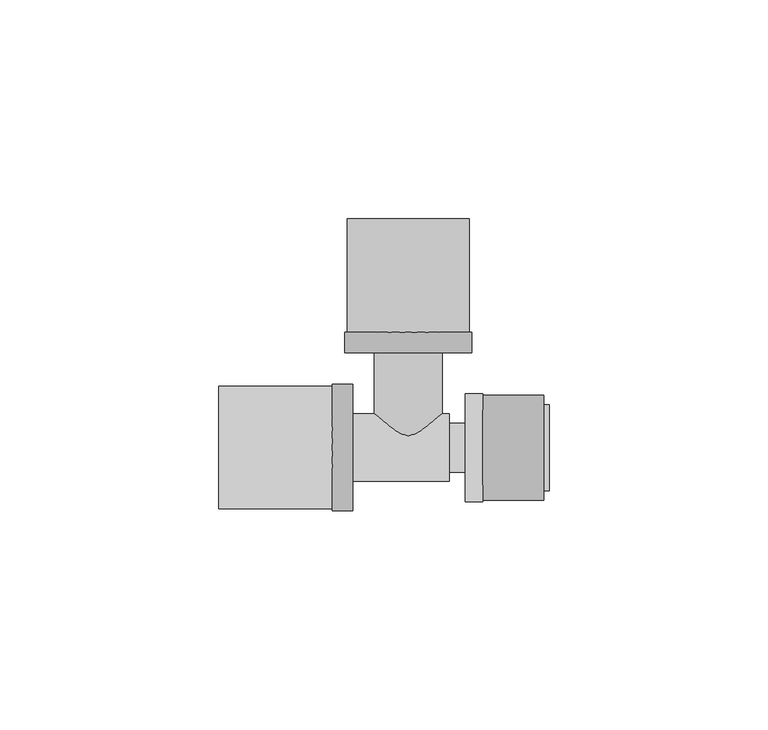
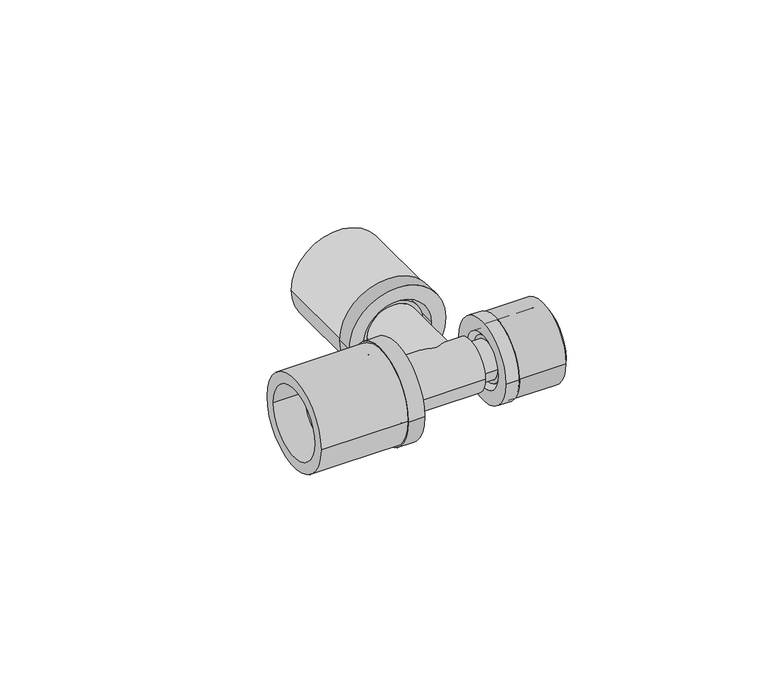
"""IFC4 building model written with IfcOpenShell, lengths in millimetres: pipe fitting geometry, FASTLOC_T-piece_EX+ : FSL T-Piece EX+ AT."""

import ifcopenshell
import ifcopenshell.guid

model = None  # the IFC model being written
_history = None  # IfcOwnerHistory: only IFC2X3 demands one
_inside = {}  # id of a spatial element -> (the spatial element, [elements in it])
_under = {}  # id of a project, library or spatial element -> (it, [spatial elements below it])
_declared = {}  # id of a project -> (the project, [libraries it declares])
_typed = {}  # id of a type object -> (the type object, [elements of that type])
_made_of = {}  # id of a material, layer set ... -> (it, [elements and type objects made of it])


def new_model(schema):
    """Start an empty IFC model of exactly this schema.

    Asked for "IFC4X3", IfcOpenShell would pick the latest addendum, in which some entities
    have other attributes; the version numbers below select the first issue.
    IFC2X3 requires an IfcOwnerHistory on every rooted entity: one is made here for all.
    """
    global model, _history
    if schema == "IFC4X3":
        model = ifcopenshell.file(schema_version=(4, 3, 0, 0))
    else:
        model = ifcopenshell.file(schema=schema)
    _inside.clear()
    _under.clear()
    _declared.clear()
    _typed.clear()
    _made_of.clear()
    _history = None
    if model.schema == "IFC2X3":
        org = make("IfcOrganization", Name="unknown")
        user = make(
            "IfcPersonAndOrganization",
            ThePerson=make("IfcPerson", FamilyName="unknown"),
            TheOrganization=org,
        )
        app = make(
            "IfcApplication",
            ApplicationDeveloper=org,
            Version="unknown",
            ApplicationFullName="unknown",
            ApplicationIdentifier="unknown",
        )
        _history = make(
            "IfcOwnerHistory",
            OwningUser=user,
            OwningApplication=app,
            ChangeAction="ADDED",
            CreationDate=0,
        )
    return model


def make(cls, **values):
    """One entity of the class cls with the attributes given. An attribute that is None is left unset."""
    return model.create_entity(
        cls, **{name: value for name, value in values.items() if value is not None}
    )


def rooted(cls, **values):
    """An entity with a GlobalId (a new one), such as an element, a storey or a relation."""
    return make(cls, GlobalId=ifcopenshell.guid.new(), OwnerHistory=_history, **values)


def si_unit(unit_type, name, prefix=None):
    """IfcSIUnit, for example si_unit("LENGTHUNIT", "METRE", prefix="MILLI")."""
    return make("IfcSIUnit", UnitType=unit_type, Prefix=prefix, Name=name)


def assignment(units):
    """IfcUnitAssignment: the units of a project."""
    return None if units is None else make("IfcUnitAssignment", Units=units)


def point(xyz):
    """IfcCartesianPoint."""
    return None if xyz is None else make("IfcCartesianPoint", Coordinates=xyz)


def direction(xyz):
    """IfcDirection."""
    return None if xyz is None else make("IfcDirection", DirectionRatios=xyz)


def frame(location, z_axis=None, x_axis=None):
    """IfcAxis2Placement3D, a coordinate frame: its origin and axes. An axis left out is left unset."""
    return make(
        "IfcAxis2Placement3D",
        Location=point(location),
        Axis=direction(z_axis),
        RefDirection=direction(x_axis),
    )


def frame_2d(location, x_axis=None):
    """IfcAxis2Placement2D, a coordinate frame in the plane: its origin and x axis."""
    return make(
        "IfcAxis2Placement2D", Location=point(location), RefDirection=direction(x_axis)
    )


def origin():
    """The frame at (0, 0, 0) with its axes left unset."""
    return frame((0.0, 0.0, 0.0))


def origin_2d():
    """The frame at (0, 0) in the plane with its x axis left unset."""
    return frame_2d((0.0, 0.0))


def place(relative_to, where):
    """IfcLocalPlacement: puts the frame where relative to a parent placement (None: the world)."""
    return make(
        "IfcLocalPlacement", PlacementRelTo=relative_to, RelativePlacement=where
    )


def context(
    kind, dimensions, precision=None, world=None, true_north=None, identifier=None
):
    """IfcGeometricRepresentationContext, for example the 3D "Model" context."""
    return make(
        "IfcGeometricRepresentationContext",
        ContextIdentifier=identifier,
        ContextType=kind,
        CoordinateSpaceDimension=dimensions,
        Precision=precision,
        WorldCoordinateSystem=world,
        TrueNorth=true_north,
    )


def project(units=None, contexts=None):
    """IfcProject with its units and contexts."""
    return rooted(
        "IfcProject",
        Name="project",
        RepresentationContexts=contexts,
        UnitsInContext=assignment(units),
    )


def spatial(cls, under=None, at=None, **own):
    """A site, building, storey or space (cls), placed at a placement, below another one or the project."""
    s = rooted(cls, ObjectPlacement=at, **own)
    if under is not None:
        _under.setdefault(under.id(), (under, []))[1].append(s)
    return s


def polyline(points):
    """IfcPolyline through the points."""
    return make("IfcPolyline", Points=[point(p) for p in points])


def circle_curve(where, radius):
    """IfcCircle in the frame where."""
    return make("IfcCircle", Position=where, Radius=radius)


def trimmed(basis, trim1, trim2, sense, master):
    """IfcTrimmedCurve: the piece of a basis curve between two trims."""
    return make(
        "IfcTrimmedCurve",
        BasisCurve=basis,
        Trim1=trim1,
        Trim2=trim2,
        SenseAgreement=sense,
        MasterRepresentation=master,
    )


def segment(curve, same_sense, transition):
    """IfcCompositeCurveSegment."""
    return make(
        "IfcCompositeCurveSegment",
        Transition=transition,
        SameSense=same_sense,
        ParentCurve=curve,
    )


def composite_curve(segments, self_intersect=None):
    """IfcCompositeCurve: segments joined end to end."""
    return make("IfcCompositeCurve", Segments=segments, SelfIntersect=self_intersect)


def outline(outer, holes=None, kind="AREA"):
    """IfcArbitraryClosedProfileDef: a profile drawn as a closed curve; with holes, ...WithVoids."""
    if holes is None:
        return make("IfcArbitraryClosedProfileDef", ProfileType=kind, OuterCurve=outer)
    return make(
        "IfcArbitraryProfileDefWithVoids",
        ProfileType=kind,
        OuterCurve=outer,
        InnerCurves=holes,
    )


def extrude(swept, where, along, depth):
    """IfcExtrudedAreaSolid: the profile swept, set in the frame where, extruded along a direction by depth."""
    return make(
        "IfcExtrudedAreaSolid",
        SweptArea=swept,
        Position=where,
        ExtrudedDirection=direction(along),
        Depth=depth,
    )


def shape(context_of_items, identifier, shape_type, items):
    """IfcShapeRepresentation: the items that make up one representation, for example the "Body"."""
    return make(
        "IfcShapeRepresentation",
        ContextOfItems=context_of_items,
        RepresentationIdentifier=identifier,
        RepresentationType=shape_type,
        Items=items,
    )


def source(mapping_origin, context_of_items, identifier, shape_type, items):
    """IfcRepresentationMap: a shape defined once, which mapped items show again and again."""
    return make(
        "IfcRepresentationMap",
        MappingOrigin=mapping_origin,
        MappedRepresentation=shape(context_of_items, identifier, shape_type, items),
    )


def transform(
    local_origin,
    x_axis=None,
    y_axis=None,
    z_axis=None,
    scale=None,
    scale2=None,
    scale3=None,
    uniform=True,
):
    """IfcCartesianTransformationOperator3D, or its non-uniform kind. x_axis, y_axis, z_axis: its Axis1, 2, 3."""
    if uniform:
        return make(
            "IfcCartesianTransformationOperator3D",
            Axis1=direction(x_axis),
            Axis2=direction(y_axis),
            LocalOrigin=point(local_origin),
            Scale=scale,
            Axis3=direction(z_axis),
        )
    return make(
        "IfcCartesianTransformationOperator3DnonUniform",
        Axis1=direction(x_axis),
        Axis2=direction(y_axis),
        LocalOrigin=point(local_origin),
        Scale=scale,
        Axis3=direction(z_axis),
        Scale2=scale2,
        Scale3=scale3,
    )


def mapped(mapping_source, mapping_target):
    """IfcMappedItem: shows the shape of a source again, moved by a transform."""
    return make(
        "IfcMappedItem", MappingSource=mapping_source, MappingTarget=mapping_target
    )


def made_of(thing, what):
    """Note that an element or type object is made of a material, layer set ...; save() writes the relation."""
    if what is not None:
        _made_of.setdefault(what.id(), (what, []))[1].append(thing)
    return thing


def element(
    cls,
    number,
    at=None,
    inside=None,
    cuts=None,
    type_object=None,
    material=None,
    context=None,
    identifier="Body",
    shape_type=None,
    held_by="IfcProductDefinitionShape",
    body=None,
    shapes=None,
    **own,
):
    """One element of the class cls, such as IfcWall. Its Tag is "e" and its number.

    at: its placement. inside: the storey or other place that contains it. cuts: it is an
    opening in that element (IfcRelVoidsElement). A single representation is given by context,
    identifier, shape_type and body (its items); several are given by shapes. held_by: the class
    of the entity that holds the representations. save() writes the other relations.
    """
    e = rooted(cls, Tag="e%d" % number, ObjectPlacement=at, **own)
    if body is not None:
        shapes = [shape(context, identifier, shape_type, body)]
    if shapes is not None:
        e.Representation = make(held_by, Representations=shapes)
    if inside is not None:
        _inside.setdefault(inside.id(), (inside, []))[1].append(e)
    if cuts is not None:
        rooted(
            "IfcRelVoidsElement", RelatingBuildingElement=cuts, RelatedOpeningElement=e
        )
    if type_object is not None:
        _typed.setdefault(type_object.id(), (type_object, []))[1].append(e)
    return made_of(e, material)


def aggregate(whole, parts):
    """IfcRelAggregates: a whole, such as a stair, and the parts it consists of."""
    return rooted("IfcRelAggregates", RelatingObject=whole, RelatedObjects=parts)


def save(model, path):
    """Write the relations noted so far, then the file.

    IfcRelAggregates (storeys below a building ...), IfcRelContainedInSpatialStructure (elements
    in a storey), IfcRelDefinesByType, IfcRelAssociatesMaterial and IfcRelDeclares: one each for
    every whole, place, type object, material and project.
    """
    for whole, parts in _under.values():
        aggregate(whole, parts)
    for where, things in _inside.values():
        rooted(
            "IfcRelContainedInSpatialStructure",
            RelatedElements=things,
            RelatingStructure=where,
        )
    for kind, things in _typed.values():
        rooted("IfcRelDefinesByType", RelatedObjects=things, RelatingType=kind)
    for what, things in _made_of.values():
        rooted("IfcRelAssociatesMaterial", RelatedObjects=things, RelatingMaterial=what)
    for by, libraries in _declared.values():
        rooted("IfcRelDeclares", RelatingContext=by, RelatedDefinitions=libraries)
    model.write(path)


def plane_surface(at):
    """IfcPlane: the flat surface through the origin of the frame at, square to its z axis."""
    return make("IfcPlane", Position=at)


def cylinder_surface(at, radius):
    """IfcCylindricalSurface: all points at the distance radius from the z axis of the frame at."""
    return make("IfcCylindricalSurface", Position=at, Radius=radius)


def revolved_surface(curve, axis_point, axis_direction):
    """IfcSurfaceOfRevolution: the curve turned about the line through axis_point along axis_direction."""
    return make(
        "IfcSurfaceOfRevolution",
        SweptCurve=make("IfcArbitraryOpenProfileDef", ProfileType="CURVE", Curve=curve),
        AxisPosition=make("IfcAxis1Placement", Location=point(axis_point), Axis=direction(axis_direction)),
    )


def advanced_brep(points, edges, surfaces, faces):
    """IfcAdvancedBrep: a solid bounded by faces that lie on surfaces and meet in shared edges.

    An edge is (start, end): straight between two places in points (the first is 0);
    or (start, end, curve); or (start, end, curve, False) where it runs against its curve.
    A face is (place in surfaces, loops), or (place, loops, False) where it looks against
    its surface's normal. A loop lists edges by number (the first is 1), with a minus sign
    where the edge is run from its end to its start. The first loop is the outer one.
    """
    corners = [point(p) for p in points]
    vertices = [make("IfcVertexPoint", VertexGeometry=c) for c in corners]
    made = []
    for start, end, *more in edges:
        made.append(
            make(
                "IfcEdgeCurve",
                EdgeStart=vertices[start],
                EdgeEnd=vertices[end],
                EdgeGeometry=more[0] if more else make("IfcPolyline", Points=[corners[start], corners[end]]),
                SameSense=more[1] if len(more) > 1 else True,
            )
        )
    hull = []
    for where, loops, *sense in faces:
        bounds = []
        for j, loop in enumerate(loops):
            ring = [make("IfcOrientedEdge", EdgeElement=made[abs(k) - 1], Orientation=k > 0) for k in loop]
            bounds.append(
                make(
                    "IfcFaceOuterBound" if j == 0 else "IfcFaceBound",
                    Bound=make("IfcEdgeLoop", EdgeList=ring),
                    Orientation=True,
                )
            )
        hull.append(make("IfcAdvancedFace", Bounds=bounds, FaceSurface=surfaces[where], SameSense=sense[0] if sense else True))
    return make("IfcAdvancedBrep", Outer=make("IfcClosedShell", CfsFaces=hull))


def pipe_fitting_e7337aea(model_context):
    return source(origin(), model_context, "Body", "SolidModel", [
        extrude(outline(composite_curve([segment(trimmed(circle_curve(origin_2d(), 12.0), [point((-12.0, 0.0))], [point((12.0, 0.0))], False, "CARTESIAN"), True, "CONTINUOUS"), segment(trimmed(circle_curve(origin_2d(), 12.0), [point((12.0, 0.0))], [point((-12.0, 0.0))], False, "CARTESIAN"), True, "CONTINUOUS")], self_intersect=False), holes=[composite_curve([segment(trimmed(circle_curve(origin_2d(), 8.85), [point((-8.85, 0.0))], [point((8.85, 0.0))], True, "CARTESIAN"), True, "CONTINUOUS"), segment(trimmed(circle_curve(origin_2d(), 8.85), [point((8.85, 0.0))], [point((-8.85, 0.0))], True, "CARTESIAN"), True, "CONTINUOUS")], self_intersect=False)]), frame((17.0, 0.0, 0.0), z_axis=(1.0, 0.0, 0.0), x_axis=(0.0, 1.0, 0.0)), (0.0, 0.0, 1.0), 14.0),
        advanced_brep(
        [(17.0, 12.35, 0.0), (17.0, -12.35, 0.0), (13.0, -12.35, 0.0), (13.0, 12.35, 0.0), (32.3, 9.85, 0.0), (32.3, -9.85, 0.0), (17.0, -9.85, 0.0), (17.0, 9.85, 0.0), (13.0, 8.15, 0.0), (13.0, -8.15, 0.0), (32.3, -8.15, 0.0), (32.3, 8.15, 0.0)],
        [
            (0, 1, circle_curve(frame((17.0, 0.0, 0.0), z_axis=(-1.0, 0.0, 0.0), x_axis=(0.0, -1.0, 0.0)), 12.35)),
            (1, 2),
            (2, 3, circle_curve(frame((13.0, 0.0, 0.0), z_axis=(1.0, 0.0, 0.0), x_axis=(0.0, -1.0, 0.0)), 12.35)),
            (3, 0),
            (4, 5, circle_curve(frame((32.3, 0.0, 0.0), z_axis=(-1.0, 0.0, 0.0), x_axis=(0.0, -1.0, 0.0)), 9.85)),
            (5, 6),
            (6, 7, circle_curve(frame((17.0, 0.0, 0.0), z_axis=(1.0, 0.0, 0.0), x_axis=(0.0, -1.0, 0.0)), 9.85)),
            (7, 4),
            (8, 9, circle_curve(frame((13.0, 0.0, 0.0), z_axis=(-1.0, 0.0, 0.0), x_axis=(0.0, -1.0, 0.0)), 8.15)),
            (9, 10),
            (10, 11, circle_curve(frame((32.3, 0.0, 0.0), z_axis=(1.0, 0.0, 0.0), x_axis=(0.0, -1.0, 0.0)), 8.15)),
            (11, 8),
            (1, 0, circle_curve(frame((17.0, 0.0, 0.0), z_axis=(-1.0, 0.0, 0.0), x_axis=(0.0, 1.0, 0.0)), 12.35)),
            (3, 2, circle_curve(frame((13.0, 0.0, 0.0), z_axis=(1.0, 0.0, 0.0), x_axis=(0.0, 1.0, 0.0)), 12.35)),
            (6, 7, circle_curve(frame((17.0, 0.0, 0.0), z_axis=(-1.0, 0.0, 0.0), x_axis=(0.0, 1.0, 0.0)), 9.85)),
            (5, 4, circle_curve(frame((32.3, 0.0, 0.0), z_axis=(-1.0, 0.0, 0.0), x_axis=(0.0, 1.0, 0.0)), 9.85)),
            (10, 11, circle_curve(frame((32.3, 0.0, 0.0), z_axis=(-1.0, 0.0, 0.0), x_axis=(0.0, 1.0, 0.0)), 8.15)),
            (9, 8, circle_curve(frame((13.0, 0.0, 0.0), z_axis=(-1.0, 0.0, 0.0), x_axis=(0.0, 1.0, 0.0)), 8.15)),
        ],
        [
            cylinder_surface(frame((13.0, 0.0, 0.0), z_axis=(1.0, 0.0, 0.0), x_axis=(0.0, -1.0, 0.0)), 12.35),
            cylinder_surface(frame((13.0, 0.0, 0.0), z_axis=(1.0, 0.0, 0.0), x_axis=(0.0, -1.0, 0.0)), 9.85),
            revolved_surface(polyline([(32.3, -8.15, 0.0), (13.0, -8.15, 0.0)]), (13.0, 0.0, 0.0), (1.0, 0.0, 0.0)),
            cylinder_surface(frame((13.0, 0.0, 0.0), z_axis=(1.0, 0.0, 0.0), x_axis=(0.0, 1.0, 0.0)), 12.35),
            plane_surface(frame((17.0, 0.0, 0.0), z_axis=(1.0, 0.0, 0.0), x_axis=(0.0, 1.0, 0.0))),
            cylinder_surface(frame((13.0, 0.0, 0.0), z_axis=(1.0, 0.0, 0.0), x_axis=(0.0, 1.0, 0.0)), 9.85),
            plane_surface(frame((32.3, 0.0, 0.0), z_axis=(1.0, 0.0, 0.0), x_axis=(0.0, 1.0, 0.0))),
            revolved_surface(polyline([(32.3, 8.15, 0.0), (13.0, 8.15, 0.0)]), (13.0, 0.0, 0.0), (1.0, 0.0, 0.0)),
            plane_surface(frame((13.0, 0.0, 0.0), z_axis=(-1.0, 0.0, 0.0), x_axis=(0.0, 1.0, 0.0))),
        ],
        [
            (0, [[1, 2, 3, 4]]),
            (1, [[5, 6, 7, 8]]),
            (2, [[9, 10, 11, 12]]),
            (3, [[13, -4, 14, -2]]),
            (4, [[-13, -1], [15, -7]]),
            (5, [[16, -8, -15, -6]]),
            (6, [[-16, -5], [17, -11]]),
            (7, [[18, -12, -17, -10]]),
            (8, [[-14, -3], [-18, -9]]),
        ],
    ),
        extrude(outline(composite_curve([segment(trimmed(circle_curve(origin_2d(), 14.0), [point((14.0, 0.0))], [point((-14.0, 0.0))], False, "CARTESIAN"), True, "CONTINUOUS"), segment(trimmed(circle_curve(origin_2d(), 14.0), [point((-14.0, 0.0))], [point((14.0, 0.0))], False, "CARTESIAN"), True, "CONTINUOUS")], self_intersect=False), holes=[composite_curve([segment(trimmed(circle_curve(origin_2d(), 10.7), [point((10.7, 0.0))], [point((-10.7, 0.0))], True, "CARTESIAN"), True, "CONTINUOUS"), segment(trimmed(circle_curve(origin_2d(), 10.7), [point((-10.7, 0.0))], [point((10.7, 0.0))], True, "CARTESIAN"), True, "CONTINUOUS")], self_intersect=False)]), frame((-43.4, 0.0, 0.0), z_axis=(1.0, 0.0, 0.0), x_axis=(0.0, 1.0, 0.0)), (0.0, 0.0, 1.0), 26.0),
        advanced_brep(
        [(-17.4, -14.5, 0.0), (-17.4, 14.5, 0.0), (-12.7, 14.5, 0.0), (-12.7, -14.5, 0.0), (-34.4, -11.85, 0.0), (-34.4, 11.85, 0.0), (-17.4, 11.85, 0.0), (-17.4, -11.85, 0.0), (-12.7, -10.15, 0.0), (-12.7, 10.15, 0.0), (-34.4, 10.15, 0.0), (-34.4, -10.15, 0.0)],
        [
            (0, 1, circle_curve(frame((-17.4, 0.0, 0.0), z_axis=(1.0, 0.0, 0.0), x_axis=(0.0, 1.0, 0.0)), 14.5)),
            (1, 2),
            (2, 3, circle_curve(frame((-12.7, 0.0, 0.0), z_axis=(-1.0, 0.0, 0.0), x_axis=(0.0, 1.0, 0.0)), 14.5)),
            (3, 0),
            (4, 5, circle_curve(frame((-34.4, 0.0, 0.0), z_axis=(1.0, 0.0, 0.0), x_axis=(0.0, 1.0, 0.0)), 11.85)),
            (5, 6),
            (6, 7, circle_curve(frame((-17.4, 0.0, 0.0), z_axis=(-1.0, 0.0, 0.0), x_axis=(0.0, 1.0, 0.0)), 11.85)),
            (7, 4),
            (8, 9, circle_curve(frame((-12.7, 0.0, 0.0), z_axis=(1.0, 0.0, 0.0), x_axis=(0.0, 1.0, 0.0)), 10.15)),
            (9, 10),
            (10, 11, circle_curve(frame((-34.4, 0.0, 0.0), z_axis=(-1.0, 0.0, 0.0), x_axis=(0.0, 1.0, 0.0)), 10.15)),
            (11, 8),
            (1, 0, circle_curve(frame((-17.4, 0.0, 0.0), z_axis=(1.0, 0.0, 0.0), x_axis=(0.0, -1.0, 0.0)), 14.5)),
            (3, 2, circle_curve(frame((-12.7, 0.0, 0.0), z_axis=(-1.0, 0.0, 0.0), x_axis=(0.0, -1.0, 0.0)), 14.5)),
            (6, 7, circle_curve(frame((-17.4, 0.0, 0.0), z_axis=(1.0, 0.0, 0.0), x_axis=(0.0, -1.0, 0.0)), 11.85)),
            (5, 4, circle_curve(frame((-34.4, 0.0, 0.0), z_axis=(1.0, 0.0, 0.0), x_axis=(0.0, -1.0, 0.0)), 11.85)),
            (10, 11, circle_curve(frame((-34.4, 0.0, 0.0), z_axis=(1.0, 0.0, 0.0), x_axis=(0.0, -1.0, 0.0)), 10.15)),
            (9, 8, circle_curve(frame((-12.7, 0.0, 0.0), z_axis=(1.0, 0.0, 0.0), x_axis=(0.0, -1.0, 0.0)), 10.15)),
        ],
        [
            cylinder_surface(frame((-12.7, 0.0, 0.0), z_axis=(-1.0, 0.0, 0.0), x_axis=(0.0, 1.0, 0.0)), 14.5),
            cylinder_surface(frame((-12.7, 0.0, 0.0), z_axis=(-1.0, 0.0, 0.0), x_axis=(0.0, 1.0, 0.0)), 11.85),
            revolved_surface(polyline([(-34.4, 10.15, 0.0), (-12.7, 10.15, 0.0)]), (-12.7, 0.0, 0.0), (-1.0, 0.0, 0.0)),
            cylinder_surface(frame((-12.7, 0.0, 0.0), z_axis=(-1.0, 0.0, 0.0), x_axis=(0.0, -1.0, 0.0)), 14.5),
            plane_surface(frame((-17.4, 0.0, 0.0), z_axis=(-1.0, 0.0, 0.0), x_axis=(0.0, -1.0, 0.0))),
            cylinder_surface(frame((-12.7, 0.0, 0.0), z_axis=(-1.0, 0.0, 0.0), x_axis=(0.0, -1.0, 0.0)), 11.85),
            plane_surface(frame((-34.4, 0.0, 0.0), z_axis=(-1.0, 0.0, 0.0), x_axis=(0.0, -1.0, 0.0))),
            revolved_surface(polyline([(-34.4, -10.15, 0.0), (-12.7, -10.15, 0.0)]), (-12.7, 0.0, 0.0), (-1.0, 0.0, 0.0)),
            plane_surface(frame((-12.7, 0.0, 0.0), z_axis=(1.0, 0.0, 0.0), x_axis=(0.0, -1.0, 0.0))),
        ],
        [
            (0, [[1, 2, 3, 4]]),
            (1, [[5, 6, 7, 8]]),
            (2, [[9, 10, 11, 12]]),
            (3, [[13, -4, 14, -2]]),
            (4, [[-13, -1], [15, -7]]),
            (5, [[16, -8, -15, -6]]),
            (6, [[-16, -5], [17, -11]]),
            (7, [[18, -12, -17, -10]]),
            (8, [[-14, -3], [-18, -9]]),
        ],
    ),
        extrude(outline(composite_curve([segment(trimmed(circle_curve(origin_2d(), 14.0), [point((0.0, 14.0))], [point((0.0, -14.0))], False, "CARTESIAN"), True, "CONTINUOUS"), segment(trimmed(circle_curve(origin_2d(), 14.0), [point((0.0, -14.0))], [point((0.0, 14.0))], False, "CARTESIAN"), True, "CONTINUOUS")], self_intersect=False), holes=[composite_curve([segment(trimmed(circle_curve(origin_2d(), 10.7), [point((0.0, 10.7))], [point((0.0, -10.7))], True, "CARTESIAN"), True, "CONTINUOUS"), segment(trimmed(circle_curve(origin_2d(), 10.7), [point((0.0, -10.7))], [point((0.0, 10.7))], True, "CARTESIAN"), True, "CONTINUOUS")], self_intersect=False)]), frame((0.0, 26.4, 0.0), z_axis=(0.0, 1.0, 0.0), x_axis=(0.0, 0.0, 1.0)), (0.0, 0.0, 1.0), 26.0),
        advanced_brep(
        [(-14.5, 26.4, 0.0), (14.5, 26.4, 0.0), (14.5, 21.7, 0.0), (-14.5, 21.7, 0.0), (-11.85, 43.4, 0.0), (11.85, 43.4, 0.0), (11.85, 26.4, 0.0), (-11.85, 26.4, 0.0), (-10.15, 21.7, 0.0), (10.15, 21.7, 0.0), (10.15, 43.4, 0.0), (-10.15, 43.4, 0.0)],
        [
            (0, 1, circle_curve(frame((0.0, 26.4, 0.0), z_axis=(0.0, -1.0, 0.0), x_axis=(1.0, 0.0, 0.0)), 14.5)),
            (1, 2),
            (2, 3, circle_curve(frame((0.0, 21.7, 0.0), z_axis=(0.0, 1.0, 0.0), x_axis=(1.0, 0.0, 0.0)), 14.5)),
            (3, 0),
            (4, 5, circle_curve(frame((0.0, 43.4, 0.0), z_axis=(0.0, -1.0, 0.0), x_axis=(1.0, 0.0, 0.0)), 11.85)),
            (5, 6),
            (6, 7, circle_curve(frame((0.0, 26.4, 0.0), z_axis=(0.0, 1.0, 0.0), x_axis=(1.0, 0.0, 0.0)), 11.85)),
            (7, 4),
            (8, 9, circle_curve(frame((0.0, 21.7, 0.0), z_axis=(0.0, -1.0, 0.0), x_axis=(1.0, 0.0, 0.0)), 10.15)),
            (9, 10),
            (10, 11, circle_curve(frame((0.0, 43.4, 0.0), z_axis=(0.0, 1.0, 0.0), x_axis=(1.0, 0.0, 0.0)), 10.15)),
            (11, 8),
            (1, 0, circle_curve(frame((0.0, 26.4, 0.0), z_axis=(0.0, -1.0, 0.0), x_axis=(-1.0, 0.0, 0.0)), 14.5)),
            (3, 2, circle_curve(frame((0.0, 21.7, 0.0), z_axis=(0.0, 1.0, 0.0), x_axis=(-1.0, 0.0, 0.0)), 14.5)),
            (6, 7, circle_curve(frame((0.0, 26.4, 0.0), z_axis=(0.0, -1.0, 0.0), x_axis=(-1.0, 0.0, 0.0)), 11.85)),
            (5, 4, circle_curve(frame((0.0, 43.4, 0.0), z_axis=(0.0, -1.0, 0.0), x_axis=(-1.0, 0.0, 0.0)), 11.85)),
            (10, 11, circle_curve(frame((0.0, 43.4, 0.0), z_axis=(0.0, -1.0, 0.0), x_axis=(-1.0, 0.0, 0.0)), 10.15)),
            (9, 8, circle_curve(frame((0.0, 21.7, 0.0), z_axis=(0.0, -1.0, 0.0), x_axis=(-1.0, 0.0, 0.0)), 10.15)),
        ],
        [
            cylinder_surface(frame((0.0, 21.7, 0.0), z_axis=(0.0, 1.0, 0.0), x_axis=(1.0, 0.0, 0.0)), 14.5),
            cylinder_surface(frame((0.0, 21.7, 0.0), z_axis=(0.0, 1.0, 0.0), x_axis=(1.0, 0.0, 0.0)), 11.85),
            revolved_surface(polyline([(10.15, 43.4, 0.0), (10.15, 21.7, 0.0)]), (0.0, 21.7, 0.0), (0.0, 1.0, 0.0)),
            cylinder_surface(frame((0.0, 21.7, 0.0), z_axis=(0.0, 1.0, 0.0), x_axis=(-1.0, 0.0, 0.0)), 14.5),
            plane_surface(frame((0.0, 26.4, 0.0), z_axis=(0.0, 1.0, 0.0), x_axis=(-1.0, 0.0, 0.0))),
            cylinder_surface(frame((0.0, 21.7, 0.0), z_axis=(0.0, 1.0, 0.0), x_axis=(-1.0, 0.0, 0.0)), 11.85),
            plane_surface(frame((0.0, 43.4, 0.0), z_axis=(0.0, 1.0, 0.0), x_axis=(-1.0, 0.0, 0.0))),
            revolved_surface(polyline([(-10.15, 43.4, 0.0), (-10.15, 21.7, 0.0)]), (0.0, 21.7, 0.0), (0.0, 1.0, 0.0)),
            plane_surface(frame((0.0, 21.7, 0.0), z_axis=(0.0, -1.0, 0.0), x_axis=(-1.0, 0.0, 0.0))),
        ],
        [
            (0, [[1, 2, 3, 4]]),
            (1, [[5, 6, 7, 8]]),
            (2, [[9, 10, 11, 12]]),
            (3, [[13, -4, 14, -2]]),
            (4, [[-13, -1], [15, -7]]),
            (5, [[16, -8, -15, -6]]),
            (6, [[-16, -5], [17, -11]]),
            (7, [[18, -12, -17, -10]]),
            (8, [[-14, -3], [-18, -9]]),
        ],
    ),
        advanced_brep(
        [(14.29, 5.6, 0.0), (14.29, -5.6, 0.0), (9.35, -5.6, 0.0), (9.35, 5.6, 0.0), (17.0, 6.7, 0.0), (17.0, -6.7, 0.0), (14.29, -6.7, 0.0), (14.29, 6.7, 0.0), (32.0, 5.6, 0.0), (32.0, -5.6, 0.0), (17.0, -5.6, 0.0), (17.0, 5.6, 0.0), (7.5, 3.75, 0.0), (7.5, -3.75, 0.0), (32.0, -3.75, 0.0), (32.0, 3.75, 0.0), (-34.8, 5.75, 0.0), (-34.8, -5.75, 0.0), (7.5, -5.75, 0.0), (7.5, 5.75, 0.0), (-17.4, 7.75, 0.0), (-17.4, -7.75, 0.0), (-34.8, -7.75, 0.0), (-34.8, 7.75, 0.0), (-14.73, 8.8, 0.0), (-14.73, -8.8, 0.0), (-17.4, -8.8, 0.0), (-17.4, 8.8, 0.0), (9.35, 7.75, 0.0), (9.35, -7.75, 0.0), (-14.73, -7.75, 0.0), (-14.73, 7.75, 0.0)],
        [
            (0, 1, circle_curve(frame((14.29, 0.0, 0.0), z_axis=(-1.0, 0.0, 0.0), x_axis=(0.0, -1.0, 0.0)), 5.6)),
            (1, 2),
            (2, 3, circle_curve(frame((9.35, 0.0, 0.0), z_axis=(1.0, 0.0, 0.0), x_axis=(0.0, -1.0, 0.0)), 5.6)),
            (3, 0),
            (4, 5, circle_curve(frame((17.0, 0.0, 0.0), z_axis=(-1.0, 0.0, 0.0), x_axis=(0.0, -1.0, 0.0)), 6.7)),
            (5, 6),
            (6, 7, circle_curve(frame((14.29, 0.0, 0.0), z_axis=(1.0, 0.0, 0.0), x_axis=(0.0, -1.0, 0.0)), 6.7)),
            (7, 4),
            (8, 9, circle_curve(frame((32.0, 0.0, 0.0), z_axis=(-1.0, 0.0, 0.0), x_axis=(0.0, -1.0, 0.0)), 5.6)),
            (9, 10),
            (10, 11, circle_curve(frame((17.0, 0.0, 0.0), z_axis=(1.0, 0.0, 0.0), x_axis=(0.0, -1.0, 0.0)), 5.6)),
            (11, 8),
            (12, 13, circle_curve(frame((7.5, 0.0, 0.0), z_axis=(-1.0, 0.0, 0.0), x_axis=(0.0, -1.0, 0.0)), 3.75)),
            (13, 14),
            (14, 15, circle_curve(frame((32.0, 0.0, 0.0), z_axis=(1.0, 0.0, 0.0), x_axis=(0.0, -1.0, 0.0)), 3.75)),
            (15, 12),
            (16, 17, circle_curve(frame((-34.8, 0.0, 0.0), z_axis=(-1.0, 0.0, 0.0), x_axis=(0.0, -1.0, 0.0)), 5.75)),
            (17, 18),
            (18, 19, circle_curve(frame((7.5, 0.0, 0.0), z_axis=(1.0, 0.0, 0.0), x_axis=(0.0, -1.0, 0.0)), 5.75)),
            (19, 16),
            (20, 21, circle_curve(frame((-17.4, 0.0, 0.0), z_axis=(-1.0, 0.0, 0.0), x_axis=(0.0, -1.0, 0.0)), 7.75)),
            (21, 22),
            (22, 23, circle_curve(frame((-34.8, 0.0, 0.0), z_axis=(1.0, 0.0, 0.0), x_axis=(0.0, -1.0, 0.0)), 7.75)),
            (23, 20),
            (24, 25, circle_curve(frame((-14.73, 0.0, 0.0), z_axis=(-1.0, 0.0, 0.0), x_axis=(0.0, -1.0, 0.0)), 8.8)),
            (25, 26),
            (26, 27, circle_curve(frame((-17.4, 0.0, 0.0), z_axis=(1.0, 0.0, 0.0), x_axis=(0.0, -1.0, 0.0)), 8.8)),
            (27, 24),
            (28, 29, circle_curve(frame((9.35, 0.0, 0.0), z_axis=(-1.0, 0.0, 0.0), x_axis=(0.0, -1.0, 0.0)), 7.75)),
            (29, 30),
            (30, 31, circle_curve(frame((-14.73, 0.0, 0.0), z_axis=(1.0, 0.0, 0.0), x_axis=(0.0, -1.0, 0.0)), 7.75)),
            (31, 28),
            (28, 29, circle_curve(frame((9.35, 0.0, 0.0), z_axis=(1.0, 0.0, 0.0), x_axis=(0.0, 1.0, 0.0)), 7.75)),
            (2, 3, circle_curve(frame((9.35, 0.0, 0.0), z_axis=(-1.0, 0.0, 0.0), x_axis=(0.0, 1.0, 0.0)), 5.6)),
            (1, 0, circle_curve(frame((14.29, 0.0, 0.0), z_axis=(-1.0, 0.0, 0.0), x_axis=(0.0, 1.0, 0.0)), 5.6)),
            (6, 7, circle_curve(frame((14.29, 0.0, 0.0), z_axis=(-1.0, 0.0, 0.0), x_axis=(0.0, 1.0, 0.0)), 6.7)),
            (5, 4, circle_curve(frame((17.0, 0.0, 0.0), z_axis=(-1.0, 0.0, 0.0), x_axis=(0.0, 1.0, 0.0)), 6.7)),
            (10, 11, circle_curve(frame((17.0, 0.0, 0.0), z_axis=(-1.0, 0.0, 0.0), x_axis=(0.0, 1.0, 0.0)), 5.6)),
            (9, 8, circle_curve(frame((32.0, 0.0, 0.0), z_axis=(-1.0, 0.0, 0.0), x_axis=(0.0, 1.0, 0.0)), 5.6)),
            (14, 15, circle_curve(frame((32.0, 0.0, 0.0), z_axis=(-1.0, 0.0, 0.0), x_axis=(0.0, 1.0, 0.0)), 3.75)),
            (13, 12, circle_curve(frame((7.5, 0.0, 0.0), z_axis=(-1.0, 0.0, 0.0), x_axis=(0.0, 1.0, 0.0)), 3.75)),
            (18, 19, circle_curve(frame((7.5, 0.0, 0.0), z_axis=(-1.0, 0.0, 0.0), x_axis=(0.0, 1.0, 0.0)), 5.75)),
            (17, 16, circle_curve(frame((-34.8, 0.0, 0.0), z_axis=(-1.0, 0.0, 0.0), x_axis=(0.0, 1.0, 0.0)), 5.75)),
            (22, 23, circle_curve(frame((-34.8, 0.0, 0.0), z_axis=(-1.0, 0.0, 0.0), x_axis=(0.0, 1.0, 0.0)), 7.75)),
            (21, 20, circle_curve(frame((-17.4, 0.0, 0.0), z_axis=(-1.0, 0.0, 0.0), x_axis=(0.0, 1.0, 0.0)), 7.75)),
            (26, 27, circle_curve(frame((-17.4, 0.0, 0.0), z_axis=(-1.0, 0.0, 0.0), x_axis=(0.0, 1.0, 0.0)), 8.8)),
            (25, 24, circle_curve(frame((-14.73, 0.0, 0.0), z_axis=(-1.0, 0.0, 0.0), x_axis=(0.0, 1.0, 0.0)), 8.8)),
            (30, 31, circle_curve(frame((-14.73, 0.0, 0.0), z_axis=(-1.0, 0.0, 0.0), x_axis=(0.0, 1.0, 0.0)), 7.75)),
        ],
        [
            cylinder_surface(frame((0.0, 0.0, 0.0), z_axis=(1.0, 0.0, 0.0), x_axis=(0.0, -1.0, 0.0)), 5.6),
            cylinder_surface(frame((0.0, 0.0, 0.0), z_axis=(1.0, 0.0, 0.0), x_axis=(0.0, -1.0, 0.0)), 6.7),
            revolved_surface(polyline([(32.0, -3.75, 0.0), (7.5, -3.75, 0.0)]), (0.0, 0.0, 0.0), (1.0, 0.0, 0.0)),
            revolved_surface(polyline([(7.5, -5.75, 0.0), (-34.8, -5.75, 0.0)]), (0.0, 0.0, 0.0), (1.0, 0.0, 0.0)),
            cylinder_surface(frame((0.0, 0.0, 0.0), z_axis=(1.0, 0.0, 0.0), x_axis=(0.0, -1.0, 0.0)), 7.75),
            cylinder_surface(frame((0.0, 0.0, 0.0), z_axis=(1.0, 0.0, 0.0), x_axis=(0.0, -1.0, 0.0)), 8.8),
            plane_surface(frame((9.35, 0.0, 0.0), z_axis=(1.0, 0.0, 0.0), x_axis=(0.0, 1.0, 0.0))),
            cylinder_surface(frame((0.0, 0.0, 0.0), z_axis=(1.0, 0.0, 0.0), x_axis=(0.0, 1.0, 0.0)), 5.6),
            plane_surface(frame((14.29, 0.0, 0.0), z_axis=(-1.0, 0.0, 0.0), x_axis=(0.0, 1.0, 0.0))),
            cylinder_surface(frame((0.0, 0.0, 0.0), z_axis=(1.0, 0.0, 0.0), x_axis=(0.0, 1.0, 0.0)), 6.7),
            plane_surface(frame((17.0, 0.0, 0.0), z_axis=(1.0, 0.0, 0.0), x_axis=(0.0, 1.0, 0.0))),
            plane_surface(frame((32.0, 0.0, 0.0), z_axis=(1.0, 0.0, 0.0), x_axis=(0.0, 1.0, 0.0))),
            revolved_surface(polyline([(32.0, 3.75, 0.0), (7.5, 3.75, 0.0)]), (0.0, 0.0, 0.0), (1.0, 0.0, 0.0)),
            plane_surface(frame((7.5, 0.0, 0.0), z_axis=(-1.0, 0.0, 0.0), x_axis=(0.0, 1.0, 0.0))),
            revolved_surface(polyline([(7.5, 5.75, 0.0), (-34.8, 5.75, 0.0)]), (0.0, 0.0, 0.0), (1.0, 0.0, 0.0)),
            plane_surface(frame((-34.8, 0.0, 0.0), z_axis=(-1.0, 0.0, 0.0), x_axis=(0.0, 1.0, 0.0))),
            cylinder_surface(frame((0.0, 0.0, 0.0), z_axis=(1.0, 0.0, 0.0), x_axis=(0.0, 1.0, 0.0)), 7.75),
            plane_surface(frame((-17.4, 0.0, 0.0), z_axis=(-1.0, 0.0, 0.0), x_axis=(0.0, 1.0, 0.0))),
            cylinder_surface(frame((0.0, 0.0, 0.0), z_axis=(1.0, 0.0, 0.0), x_axis=(0.0, 1.0, 0.0)), 8.8),
            plane_surface(frame((-14.73, 0.0, 0.0), z_axis=(1.0, 0.0, 0.0), x_axis=(0.0, 1.0, 0.0))),
        ],
        [
            (0, [[1, 2, 3, 4]]),
            (1, [[5, 6, 7, 8]]),
            (0, [[9, 10, 11, 12]]),
            (2, [[13, 14, 15, 16]]),
            (3, [[17, 18, 19, 20]]),
            (4, [[21, 22, 23, 24]]),
            (5, [[25, 26, 27, 28]]),
            (4, [[29, 30, 31, 32]]),
            (6, [[33, -29], [34, -3]]),
            (7, [[35, -4, -34, -2]]),
            (8, [[36, -7], [-35, -1]]),
            (9, [[37, -8, -36, -6]]),
            (10, [[-37, -5], [38, -11]]),
            (7, [[39, -12, -38, -10]]),
            (11, [[-39, -9], [40, -15]]),
            (12, [[41, -16, -40, -14]]),
            (13, [[42, -19], [-41, -13]]),
            (14, [[43, -20, -42, -18]]),
            (15, [[44, -23], [-43, -17]]),
            (16, [[45, -24, -44, -22]]),
            (17, [[46, -27], [-45, -21]]),
            (18, [[47, -28, -46, -26]]),
            (19, [[-47, -25], [48, -31]]),
            (16, [[-33, -32, -48, -30]]),
        ],
    ),
        advanced_brep(
        [(5.75, 43.8, 0.0), (-5.75, 43.8, 0.0), (-5.75, 0.0, 0.0), (5.75, 0.0, 0.0), (7.75, 0.0, 0.0), (-7.75, 0.0, 0.0), (-7.75, 23.73, 0.0), (7.75, 23.73, 0.0), (8.8, 23.73, 0.0), (-8.8, 23.73, 0.0), (-8.8, 26.4, 0.0), (8.8, 26.4, 0.0), (7.75, 26.4, 0.0), (-7.75, 26.4, 0.0), (-7.75, 43.8, 0.0), (7.75, 43.8, 0.0)],
        [
            (0, 1, circle_curve(frame((0.0, 43.8, 0.0), z_axis=(0.0, 1.0, 0.0), x_axis=(-1.0, 0.0, 0.0)), 5.75)),
            (1, 2),
            (2, 3, circle_curve(frame((0.0, 0.0, 0.0), z_axis=(0.0, -1.0, 0.0), x_axis=(-1.0, 0.0, 0.0)), 5.75)),
            (3, 0),
            (4, 5, circle_curve(frame((0.0, 0.0, 0.0), z_axis=(0.0, 1.0, 0.0), x_axis=(-1.0, 0.0, 0.0)), 7.75)),
            (5, 6),
            (6, 7, circle_curve(frame((0.0, 23.73, 0.0), z_axis=(0.0, -1.0, 0.0), x_axis=(-1.0, 0.0, 0.0)), 7.75)),
            (7, 4),
            (8, 9, circle_curve(frame((0.0, 23.73, 0.0), z_axis=(0.0, 1.0, 0.0), x_axis=(-1.0, 0.0, 0.0)), 8.8)),
            (9, 10),
            (10, 11, circle_curve(frame((0.0, 26.4, 0.0), z_axis=(0.0, -1.0, 0.0), x_axis=(-1.0, 0.0, 0.0)), 8.8)),
            (11, 8),
            (12, 13, circle_curve(frame((0.0, 26.4, 0.0), z_axis=(0.0, 1.0, 0.0), x_axis=(-1.0, 0.0, 0.0)), 7.75)),
            (13, 14),
            (14, 15, circle_curve(frame((0.0, 43.8, 0.0), z_axis=(0.0, -1.0, 0.0), x_axis=(-1.0, 0.0, 0.0)), 7.75)),
            (15, 12),
            (1, 0, circle_curve(frame((0.0, 43.8, 0.0), z_axis=(0.0, 1.0, 0.0), x_axis=(1.0, 0.0, 0.0)), 5.75)),
            (3, 2, circle_curve(frame((0.0, 0.0, 0.0), z_axis=(0.0, -1.0, 0.0), x_axis=(1.0, 0.0, 0.0)), 5.75)),
            (4, 5, circle_curve(frame((0.0, 0.0, 0.0), z_axis=(0.0, -1.0, 0.0), x_axis=(1.0, 0.0, 0.0)), 7.75)),
            (7, 6, circle_curve(frame((0.0, 23.73, 0.0), z_axis=(0.0, -1.0, 0.0), x_axis=(1.0, 0.0, 0.0)), 7.75)),
            (8, 9, circle_curve(frame((0.0, 23.73, 0.0), z_axis=(0.0, -1.0, 0.0), x_axis=(1.0, 0.0, 0.0)), 8.8)),
            (11, 10, circle_curve(frame((0.0, 26.4, 0.0), z_axis=(0.0, -1.0, 0.0), x_axis=(1.0, 0.0, 0.0)), 8.8)),
            (12, 13, circle_curve(frame((0.0, 26.4, 0.0), z_axis=(0.0, -1.0, 0.0), x_axis=(1.0, 0.0, 0.0)), 7.75)),
            (15, 14, circle_curve(frame((0.0, 43.8, 0.0), z_axis=(0.0, -1.0, 0.0), x_axis=(1.0, 0.0, 0.0)), 7.75)),
        ],
        [
            revolved_surface(polyline([(-5.75, 0.0, 0.0), (-5.75, 43.8, 0.0)]), (0.0, 0.0, 0.0), (0.0, -1.0, 0.0)),
            cylinder_surface(frame((0.0, 0.0, 0.0), z_axis=(0.0, -1.0, 0.0), x_axis=(-1.0, 0.0, 0.0)), 7.75),
            cylinder_surface(frame((0.0, 0.0, 0.0), z_axis=(0.0, -1.0, 0.0), x_axis=(-1.0, 0.0, 0.0)), 8.8),
            revolved_surface(polyline([(5.75, 0.0, 0.0), (5.75, 43.8, 0.0)]), (0.0, 0.0, 0.0), (0.0, -1.0, 0.0)),
            plane_surface(frame((0.0, 0.0, 0.0), z_axis=(0.0, -1.0, 0.0), x_axis=(1.0, 0.0, 0.0))),
            cylinder_surface(frame((0.0, 0.0, 0.0), z_axis=(0.0, -1.0, 0.0), x_axis=(1.0, 0.0, 0.0)), 7.75),
            plane_surface(frame((0.0, 23.73, 0.0), z_axis=(0.0, -1.0, 0.0), x_axis=(1.0, 0.0, 0.0))),
            cylinder_surface(frame((0.0, 0.0, 0.0), z_axis=(0.0, -1.0, 0.0), x_axis=(1.0, 0.0, 0.0)), 8.8),
            plane_surface(frame((0.0, 26.4, 0.0), z_axis=(0.0, 1.0, 0.0), x_axis=(1.0, 0.0, 0.0))),
            plane_surface(frame((0.0, 43.8, 0.0), z_axis=(0.0, 1.0, 0.0), x_axis=(1.0, 0.0, 0.0))),
        ],
        [
            (0, [[1, 2, 3, 4]]),
            (1, [[5, 6, 7, 8]]),
            (2, [[9, 10, 11, 12]]),
            (1, [[13, 14, 15, 16]]),
            (3, [[17, -4, 18, -2]]),
            (4, [[19, -5], [-18, -3]]),
            (5, [[-19, -8, 20, -6]]),
            (6, [[21, -9], [-20, -7]]),
            (7, [[-21, -12, 22, -10]]),
            (8, [[-22, -11], [23, -13]]),
            (5, [[-23, -16, 24, -14]]),
            (9, [[-24, -15], [-17, -1]]),
        ],
    ),
    ])


if __name__ == "__main__":
    model = new_model("IFC4")
    model_context = context("Model", 3, world=origin())
    ifc_project = project(units=[si_unit("LENGTHUNIT", "METRE", prefix="MILLI")], contexts=[model_context])
    site = spatial("IfcSite", under=ifc_project)
    building = spatial("IfcBuilding", under=site)
    placement = place(None, origin())
    pipe_fitting_shape = pipe_fitting_e7337aea(model_context)
    element("IfcPipeFitting", 1, ObjectType="FASTLOC_T-piece_EX+ : FSL T-Piece EX+ AT", at=placement, inside=building, context=model_context, shape_type="MappedRepresentation", body=[
        mapped(pipe_fitting_shape, transform((0.0, 0.0, 0.0), x_axis=(1.0, 0.0, 0.0), y_axis=(0.0, 1.0, 0.0), z_axis=(0.0, 0.0, 1.0))),
    ])
    save(model, "model.ifc")
